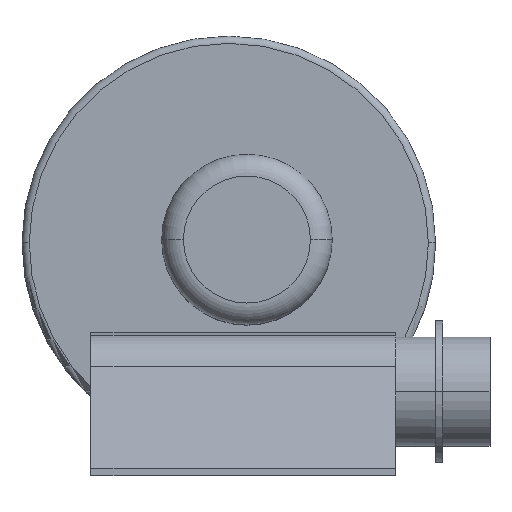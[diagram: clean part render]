
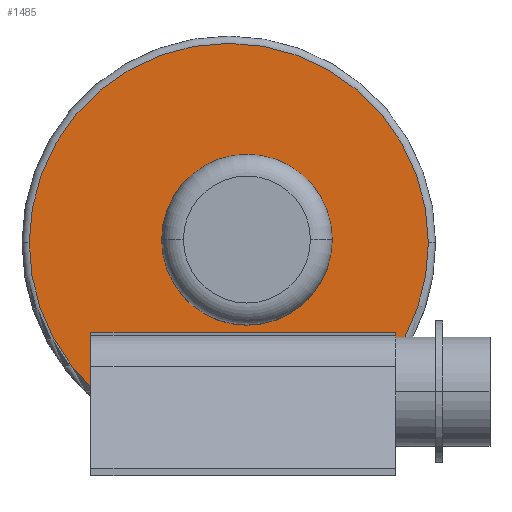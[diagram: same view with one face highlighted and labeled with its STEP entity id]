
A CAD part, top view. The second image highlights one B-rep face of the part: STEP entity #1485.
In plain terms, the highlighted planar face has unit normal (0, 0, 1).
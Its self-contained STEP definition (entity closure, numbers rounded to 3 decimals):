
#13 = CARTESIAN_POINT ( 'NONE',  ( -25., -3.929, 0. ) ) ;
#43 = CIRCLE ( 'NONE', #283, 117.5 ) ;
#47 = EDGE_CURVE ( 'NONE', #382, #239, #1791, .T. ) ;
#123 = VERTEX_POINT ( 'NONE', #1937 ) ;
#172 = CARTESIAN_POINT ( 'NONE',  ( -25., -3.929, 0. ) ) ;
#196 = DIRECTION ( 'NONE',  ( 0., 0., -1. ) ) ;
#210 = CARTESIAN_POINT ( 'NONE',  ( 217.325, -134., 0. ) ) ;
#220 = ORIENTED_EDGE ( 'NONE', *, *, #1404, .T. ) ;
#239 = VERTEX_POINT ( 'NONE', #336 ) ;
#261 = DIRECTION ( 'NONE',  ( -1., 0., 0. ) ) ;
#273 = VECTOR ( 'NONE', #1118, 1000. ) ;
#283 = AXIS2_PLACEMENT_3D ( 'NONE', #1590, #513, #1769 ) ;
#324 = EDGE_CURVE ( 'NONE', #2104, #850, #754, .T. ) ;
#336 = CARTESIAN_POINT ( 'NONE',  ( -300.027, -3.929, 0. ) ) ;
#343 = DIRECTION ( 'NONE',  ( -1., 0., 0. ) ) ;
#358 = DIRECTION ( 'NONE',  ( -1., 0., 0. ) ) ;
#382 = VERTEX_POINT ( 'NONE', #591 ) ;
#394 = DIRECTION ( 'NONE',  ( 0., 0., -1. ) ) ;
#400 = FACE_BOUND ( 'NONE', #803, .T. ) ;
#455 = CARTESIAN_POINT ( 'NONE',  ( 0., -137., 0. ) ) ;
#487 = CARTESIAN_POINT ( 'NONE',  ( 215.69, -137., 0. ) ) ;
#503 = AXIS2_PLACEMENT_3D ( 'NONE', #172, #1419, #343 ) ;
#513 = DIRECTION ( 'NONE',  ( 0., 0., -1. ) ) ;
#553 = EDGE_CURVE ( 'NONE', #1919, #819, #991, .T. ) ;
#571 = CARTESIAN_POINT ( 'NONE',  ( 260., -134., 0. ) ) ;
#591 = CARTESIAN_POINT ( 'NONE',  ( 250.027, -3.929, 0. ) ) ;
#633 = ORIENTED_EDGE ( 'NONE', *, *, #324, .F. ) ;
#648 = LINE ( 'NONE', #989, #1074 ) ;
#739 = CARTESIAN_POINT ( 'NONE',  ( -25., -3.929, 0. ) ) ;
#754 = LINE ( 'NONE', #571, #273 ) ;
#768 = CIRCLE ( 'NONE', #1875, 275.027 ) ;
#792 = EDGE_CURVE ( 'NONE', #850, #819, #648, .T. ) ;
#803 = EDGE_LOOP ( 'NONE', ( #1220, #220 ) ) ;
#819 = VERTEX_POINT ( 'NONE', #455 ) ;
#833 = ORIENTED_EDGE ( 'NONE', *, *, #792, .F. ) ;
#850 = VERTEX_POINT ( 'NONE', #1891 ) ;
#929 = DIRECTION ( 'NONE',  ( -1., 0., 0. ) ) ;
#936 = EDGE_CURVE ( 'NONE', #1294, #123, #1252, .T. ) ;
#989 = CARTESIAN_POINT ( 'NONE',  ( 0., -3.929, 0. ) ) ;
#991 = LINE ( 'NONE', #1333, #1896 ) ;
#1037 = ORIENTED_EDGE ( 'NONE', *, *, #47, .T. ) ;
#1074 = VECTOR ( 'NONE', #1694, 1000. ) ;
#1118 = DIRECTION ( 'NONE',  ( -1., 0., 0. ) ) ;
#1220 = ORIENTED_EDGE ( 'NONE', *, *, #936, .T. ) ;
#1236 = AXIS2_PLACEMENT_3D ( 'NONE', #13, #196, #1449 ) ;
#1252 = CIRCLE ( 'NONE', #1924, 117.5 ) ;
#1294 = VERTEX_POINT ( 'NONE', #1544 ) ;
#1333 = CARTESIAN_POINT ( 'NONE',  ( 260., -137., 0. ) ) ;
#1404 = EDGE_CURVE ( 'NONE', #123, #1294, #43, .T. ) ;
#1419 = DIRECTION ( 'NONE',  ( 0., 0., 1. ) ) ;
#1436 = DIRECTION ( 'NONE',  ( 0., 0., 1. ) ) ;
#1449 = DIRECTION ( 'NONE',  ( -1., 0., 0. ) ) ;
#1471 = CARTESIAN_POINT ( 'NONE',  ( 0., 0., 0. ) ) ;
#1485 = ADVANCED_FACE ( 'NONE', ( #400, #1832 ), #2146, .F. ) ;
#1509 = EDGE_LOOP ( 'NONE', ( #633, #1734, #1037, #1751, #1726, #833 ) ) ;
#1544 = CARTESIAN_POINT ( 'NONE',  ( -117.5, 0., 0. ) ) ;
#1590 = CARTESIAN_POINT ( 'NONE',  ( 0., 0., 0. ) ) ;
#1605 = CIRCLE ( 'NONE', #2101, 275.027 ) ;
#1652 = DIRECTION ( 'NONE',  ( -1., 0., 0. ) ) ;
#1694 = DIRECTION ( 'NONE',  ( 0., -1., 0. ) ) ;
#1726 = ORIENTED_EDGE ( 'NONE', *, *, #553, .T. ) ;
#1734 = ORIENTED_EDGE ( 'NONE', *, *, #2111, .T. ) ;
#1751 = ORIENTED_EDGE ( 'NONE', *, *, #2143, .T. ) ;
#1769 = DIRECTION ( 'NONE',  ( -1., 0., 0. ) ) ;
#1791 = CIRCLE ( 'NONE', #503, 275.027 ) ;
#1826 = CARTESIAN_POINT ( 'NONE',  ( -25., -3.929, 0. ) ) ;
#1832 = FACE_OUTER_BOUND ( 'NONE', #1509, .T. ) ;
#1875 = AXIS2_PLACEMENT_3D ( 'NONE', #1826, #1436, #358 ) ;
#1891 = CARTESIAN_POINT ( 'NONE',  ( 0., -134., 0. ) ) ;
#1896 = VECTOR ( 'NONE', #261, 1000. ) ;
#1919 = VERTEX_POINT ( 'NONE', #487 ) ;
#1924 = AXIS2_PLACEMENT_3D ( 'NONE', #1471, #394, #1652 ) ;
#1937 = CARTESIAN_POINT ( 'NONE',  ( 117.5, 0., 0. ) ) ;
#1987 = DIRECTION ( 'NONE',  ( 0., 0., 1. ) ) ;
#2101 = AXIS2_PLACEMENT_3D ( 'NONE', #739, #1987, #929 ) ;
#2104 = VERTEX_POINT ( 'NONE', #210 ) ;
#2111 = EDGE_CURVE ( 'NONE', #2104, #382, #768, .T. ) ;
#2143 = EDGE_CURVE ( 'NONE', #239, #1919, #1605, .T. ) ;
#2146 = PLANE ( 'NONE',  #1236 ) ;
